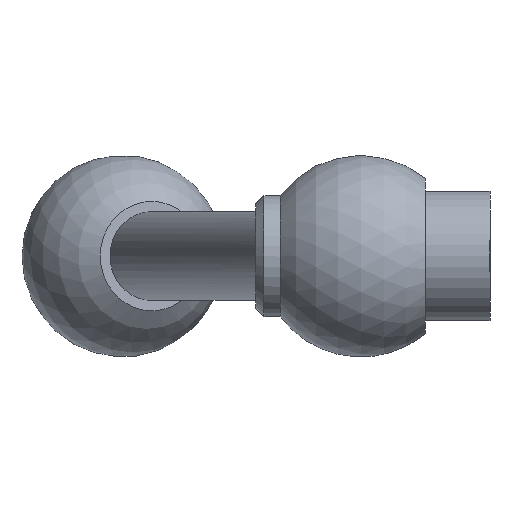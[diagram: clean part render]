
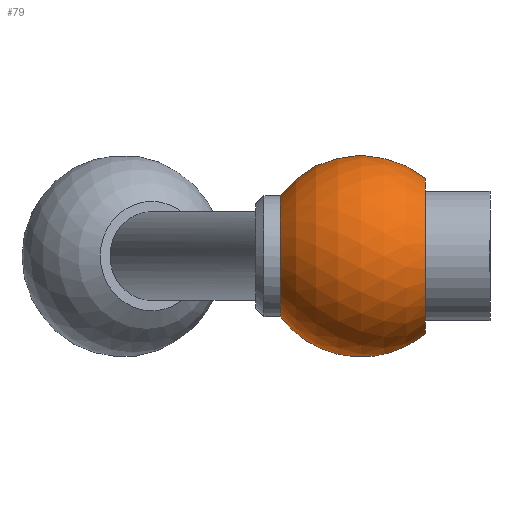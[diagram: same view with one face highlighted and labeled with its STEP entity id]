
A CAD part, left-side view. The second image highlights one B-rep face of the part: STEP entity #79.
In plain terms, the highlighted spherical face has radius 12.5 mm.
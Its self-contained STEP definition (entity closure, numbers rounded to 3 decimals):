
#79 = ADVANCED_FACE( '', ( #103, #104 ), #105, .T. );
#103 = FACE_OUTER_BOUND( '', #147, .T. );
#104 = FACE_OUTER_BOUND( '', #148, .T. );
#105 = SPHERICAL_SURFACE( '', #149, 12.5 );
#147 = EDGE_LOOP( '', ( #201, #202 ) );
#148 = EDGE_LOOP( '', ( #203 ) );
#149 = AXIS2_PLACEMENT_3D( '', #204, #205, #206 );
#201 = ORIENTED_EDGE( '', *, *, #262, .T. );
#202 = ORIENTED_EDGE( '', *, *, #259, .T. );
#203 = ORIENTED_EDGE( '', *, *, #264, .F. );
#204 = CARTESIAN_POINT( '', ( 0., 16., 0. ) );
#205 = DIRECTION( '', ( 0., -1., 0. ) );
#206 = DIRECTION( '', ( 1., 0., 0. ) );
#259 = EDGE_CURVE( '', #279, #280, #281, .T. );
#262 = EDGE_CURVE( '', #280, #279, #283, .T. );
#264 = EDGE_CURVE( '', #286, #286, #287, .T. );
#279 = VERTEX_POINT( '', #308 );
#280 = VERTEX_POINT( '', #309 );
#281 = B_SPLINE_CURVE_WITH_KNOTS( '', 3, ( #310, #311, #312, #313, #314, #315, #316, #317, #318, #319, #320, #321, #322, #323, #324, #325, #326, #327, #328, #329, #330, #331, #332, #333, #334, #335, #336, #337, #338, #339, #340, #341, #342, #343, #344, #345, #346, #347, #348, #349, #350, #351, #352, #353, #354, #355, #356, #357, #358, #359, #360, #361, #362, #363, #364, #365, #366, #367, #368, #369 ), .UNSPECIFIED., .F., .F., ( 4, 2, 2, 2, 2, 2, 2, 2, 2, 2, 2, 2, 2, 2, 2, 2, 2, 2, 2, 2, 2, 2, 2, 2, 2, 2, 2, 2, 2, 4 ), ( 0., 0.002, 0.004, 0.005, 0.005, 0.006, 0.007, 0.008, 0.009, 0.01, 0.011, 0.012, 0.013, 0.014, 0.015, 0.015, 0.016, 0.017, 0.018, 0.019, 0.02, 0.021, 0.022, 0.023, 0.024, 0.024, 0.025, 0.026, 0.027, 0.029 ), .UNSPECIFIED. );
#283 = CIRCLE( '', #384, 7.5 );
#286 = VERTEX_POINT( '', #387 );
#287 = CIRCLE( '', #388, 9.605 );
#308 = CARTESIAN_POINT( '', ( 6.981, 26., -2.74 ) );
#309 = CARTESIAN_POINT( '', ( 6.981, 26., 2.74 ) );
#310 = CARTESIAN_POINT( '', ( 6.981, 26., -2.74 ) );
#311 = CARTESIAN_POINT( '', ( 7.149, 25.738, -3.269 ) );
#312 = CARTESIAN_POINT( '', ( 7.359, 25.41, -3.732 ) );
#313 = CARTESIAN_POINT( '', ( 7.856, 24.625, -4.53 ) );
#314 = CARTESIAN_POINT( '', ( 8.132, 24.187, -4.845 ) );
#315 = CARTESIAN_POINT( '', ( 8.582, 23.466, -5.192 ) );
#316 = CARTESIAN_POINT( '', ( 8.736, 23.219, -5.284 ) );
#317 = CARTESIAN_POINT( '', ( 9.046, 22.718, -5.42 ) );
#318 = CARTESIAN_POINT( '', ( 9.203, 22.463, -5.465 ) );
#319 = CARTESIAN_POINT( '', ( 9.522, 21.945, -5.507 ) );
#320 = CARTESIAN_POINT( '', ( 9.682, 21.683, -5.504 ) );
#321 = CARTESIAN_POINT( '', ( 9.996, 21.169, -5.449 ) );
#322 = CARTESIAN_POINT( '', ( 10.151, 20.914, -5.398 ) );
#323 = CARTESIAN_POINT( '', ( 10.457, 20.41, -5.248 ) );
#324 = CARTESIAN_POINT( '', ( 10.608, 20.161, -5.148 ) );
#325 = CARTESIAN_POINT( '', ( 10.895, 19.685, -4.906 ) );
#326 = CARTESIAN_POINT( '', ( 11.032, 19.457, -4.764 ) );
#327 = CARTESIAN_POINT( '', ( 11.294, 19.019, -4.435 ) );
#328 = CARTESIAN_POINT( '', ( 11.42, 18.808, -4.247 ) );
#329 = CARTESIAN_POINT( '', ( 11.65, 18.422, -3.84 ) );
#330 = CARTESIAN_POINT( '', ( 11.756, 18.245, -3.62 ) );
#331 = CARTESIAN_POINT( '', ( 11.948, 17.921, -3.145 ) );
#332 = CARTESIAN_POINT( '', ( 12.036, 17.773, -2.888 ) );
#333 = CARTESIAN_POINT( '', ( 12.185, 17.521, -2.356 ) );
#334 = CARTESIAN_POINT( '', ( 12.248, 17.414, -2.08 ) );
#335 = CARTESIAN_POINT( '', ( 12.35, 17.242, -1.508 ) );
#336 = CARTESIAN_POINT( '', ( 12.389, 17.175, -1.21 ) );
#337 = CARTESIAN_POINT( '', ( 12.441, 17.087, -0.61 ) );
#338 = CARTESIAN_POINT( '', ( 12.454, 17.065, -0.309 ) );
#339 = CARTESIAN_POINT( '', ( 12.455, 17.064, 0.297 ) );
#340 = CARTESIAN_POINT( '', ( 12.442, 17.086, 0.605 ) );
#341 = CARTESIAN_POINT( '', ( 12.39, 17.174, 1.204 ) );
#342 = CARTESIAN_POINT( '', ( 12.352, 17.239, 1.497 ) );
#343 = CARTESIAN_POINT( '', ( 12.25, 17.41, 2.069 ) );
#344 = CARTESIAN_POINT( '', ( 12.186, 17.519, 2.351 ) );
#345 = CARTESIAN_POINT( '', ( 12.037, 17.771, 2.884 ) );
#346 = CARTESIAN_POINT( '', ( 11.952, 17.915, 3.136 ) );
#347 = CARTESIAN_POINT( '', ( 11.76, 18.238, 3.611 ) );
#348 = CARTESIAN_POINT( '', ( 11.652, 18.419, 3.837 ) );
#349 = CARTESIAN_POINT( '', ( 11.421, 18.806, 4.245 ) );
#350 = CARTESIAN_POINT( '', ( 11.298, 19.012, 4.43 ) );
#351 = CARTESIAN_POINT( '', ( 11.036, 19.449, 4.758 ) );
#352 = CARTESIAN_POINT( '', ( 10.897, 19.682, 4.904 ) );
#353 = CARTESIAN_POINT( '', ( 10.609, 20.159, 5.148 ) );
#354 = CARTESIAN_POINT( '', ( 10.461, 20.404, 5.246 ) );
#355 = CARTESIAN_POINT( '', ( 10.157, 20.906, 5.396 ) );
#356 = CARTESIAN_POINT( '', ( 9.999, 21.165, 5.449 ) );
#357 = CARTESIAN_POINT( '', ( 9.683, 21.683, 5.504 ) );
#358 = CARTESIAN_POINT( '', ( 9.525, 21.941, 5.507 ) );
#359 = CARTESIAN_POINT( '', ( 9.208, 22.455, 5.466 ) );
#360 = CARTESIAN_POINT( '', ( 9.049, 22.713, 5.422 ) );
#361 = CARTESIAN_POINT( '', ( 8.736, 23.218, 5.284 ) );
#362 = CARTESIAN_POINT( '', ( 8.583, 23.463, 5.193 ) );
#363 = CARTESIAN_POINT( '', ( 8.287, 23.939, 4.965 ) );
#364 = CARTESIAN_POINT( '', ( 8.142, 24.169, 4.828 ) );
#365 = CARTESIAN_POINT( '', ( 7.864, 24.612, 4.51 ) );
#366 = CARTESIAN_POINT( '', ( 7.733, 24.819, 4.332 ) );
#367 = CARTESIAN_POINT( '', ( 7.365, 25.401, 3.742 ) );
#368 = CARTESIAN_POINT( '', ( 7.149, 25.738, 3.269 ) );
#369 = CARTESIAN_POINT( '', ( 6.981, 26., 2.74 ) );
#384 = AXIS2_PLACEMENT_3D( '', #412, #413, #414 );
#387 = CARTESIAN_POINT( '', ( 0., 8., -9.605 ) );
#388 = AXIS2_PLACEMENT_3D( '', #418, #419, #420 );
#412 = CARTESIAN_POINT( '', ( 0., 26., 0. ) );
#413 = DIRECTION( '', ( 0., -1., 0. ) );
#414 = DIRECTION( '', ( 0., 0., -1. ) );
#418 = CARTESIAN_POINT( '', ( 0., 8., 0. ) );
#419 = DIRECTION( '', ( 0., -1., 0. ) );
#420 = DIRECTION( '', ( 0., 0., -1. ) );
